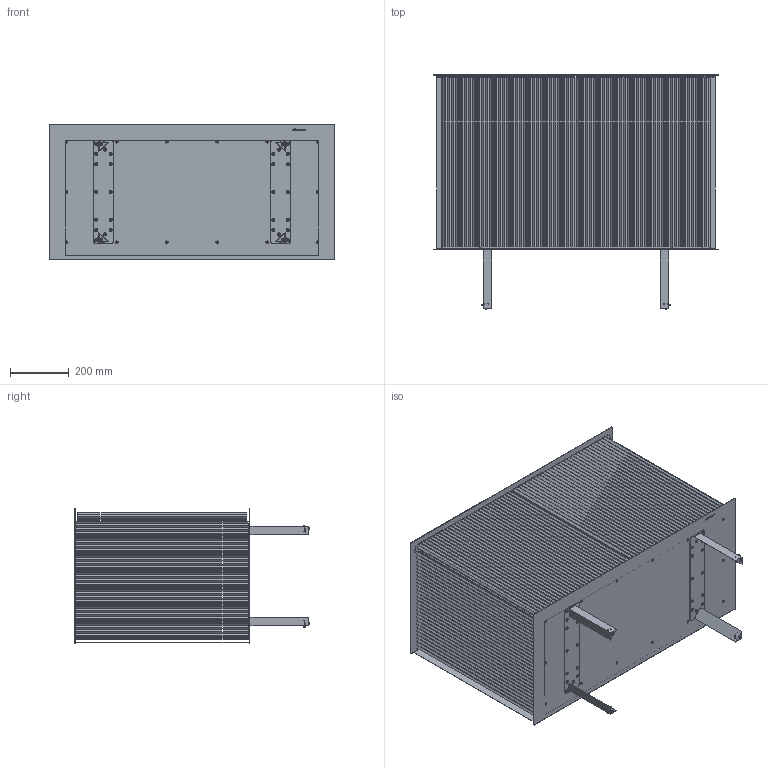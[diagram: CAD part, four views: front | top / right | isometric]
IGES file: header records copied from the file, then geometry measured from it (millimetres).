
Start section: SolidWorks IGES file using analytic representation for surfaces
Global section: file name: \\UTENTI\Dati Utenti\Tecnico\DC\2D - 3D per sito\3D\DeCastelli-3D-Elizabeth 92 Sideboard.igs; native system: SolidWorks 2022; preprocessor: SolidWorks 2022; author: maria; date: 240712.144446; units: millimetre
Bounding box: 975.8 x 800 x 463 mm (x, y, z)
Surface area: 4583155.7 mm2 (no closed solid volume)
Topology: 0 solids, 0 shells, 712 faces, 6654 edges, 6650 vertices
Faces by surface type: bspline 394, revolution 318
